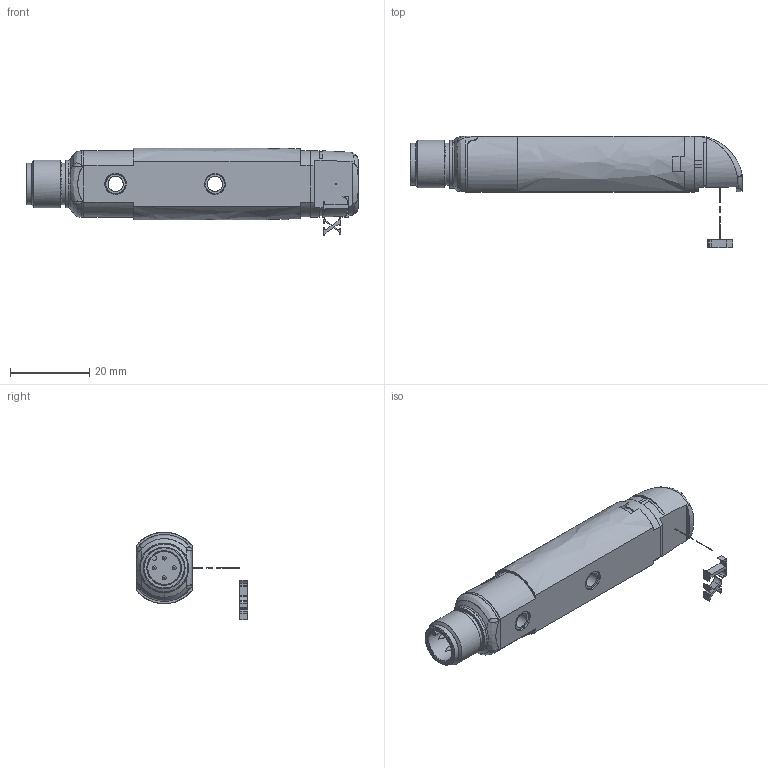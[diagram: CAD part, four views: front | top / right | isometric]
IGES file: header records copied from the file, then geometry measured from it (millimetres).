
Global section: file name: D:\TMP\DSD-0097.igs; preprocessor: I-DEAS 3D IGES Translator 11; date: 20060608.095812; units: millimetre
Bounding box: 83.55 x 28 x 22.05 mm (x, y, z)
Surface area: 5460.3 mm2
Topology: 4 solids, 4 shells, 240 faces, 1223 edges, 1108 vertices
Faces by surface type: bspline 240
